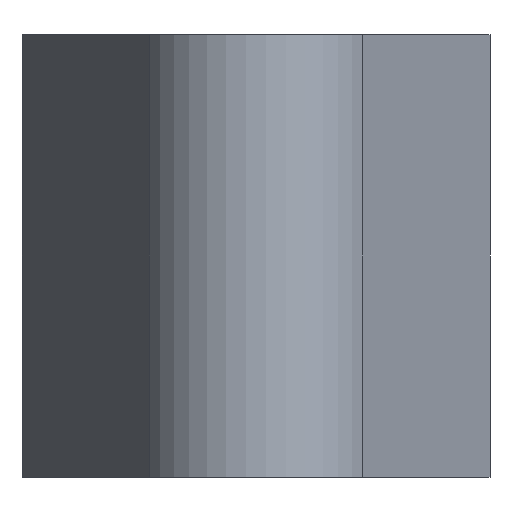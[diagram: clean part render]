
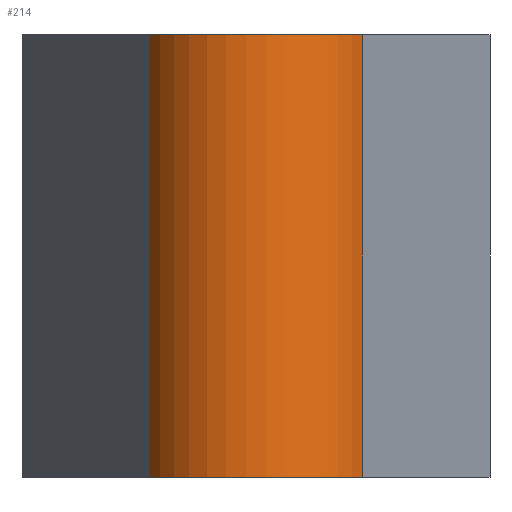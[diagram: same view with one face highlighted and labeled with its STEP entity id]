
A CAD part, left-side view. The second image highlights one B-rep face of the part: STEP entity #214.
In plain terms, the highlighted cylindrical face has radius 9.5 mm (diameter 19 mm), a partial arc.
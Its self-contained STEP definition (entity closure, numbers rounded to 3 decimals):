
#127=CYLINDRICAL_SURFACE('',#826,9.5);
#156=CIRCLE('',#824,9.5);
#157=CIRCLE('',#825,9.5);
#214=ADVANCED_FACE('',(#271),#127,.T.);
#271=FACE_OUTER_BOUND('',#305,.T.);
#305=EDGE_LOOP('',(#383,#384,#385,#386));
#383=ORIENTED_EDGE('',*,*,#644,.T.);
#384=ORIENTED_EDGE('',*,*,#645,.F.);
#385=ORIENTED_EDGE('',*,*,#641,.F.);
#386=ORIENTED_EDGE('',*,*,#646,.T.);
#571=VERTEX_POINT('',#1192);
#572=VERTEX_POINT('',#1193);
#573=VERTEX_POINT('',#1198);
#574=VERTEX_POINT('',#1199);
#641=EDGE_CURVE('',#571,#572,#737,.T.);
#644=EDGE_CURVE('',#573,#574,#740,.T.);
#645=EDGE_CURVE('',#572,#574,#156,.T.);
#646=EDGE_CURVE('',#571,#573,#157,.T.);
#737=LINE('',#1191,#781);
#740=LINE('',#1197,#784);
#781=VECTOR('',#945,1.);
#784=VECTOR('',#950,1.);
#824=AXIS2_PLACEMENT_3D('',#1200,#951,#952);
#825=AXIS2_PLACEMENT_3D('',#1201,#953,#954);
#826=AXIS2_PLACEMENT_3D('',#1202,#955,#956);
#945=DIRECTION('',(0.,0.,1.));
#950=DIRECTION('',(0.,0.,1.));
#951=DIRECTION('',(0.,0.,1.));
#952=DIRECTION('',(1.,0.,0.));
#953=DIRECTION('',(0.,0.,1.));
#954=DIRECTION('',(1.,0.,0.));
#955=DIRECTION('',(0.,0.,1.));
#956=DIRECTION('',(-1.,0.,0.));
#1191=CARTESIAN_POINT('',(-4.38,8.43,0.));
#1192=CARTESIAN_POINT('',(-4.38,8.43,0.));
#1193=CARTESIAN_POINT('',(-4.38,8.43,35.));
#1197=CARTESIAN_POINT('',(-4.38,-8.43,0.));
#1198=CARTESIAN_POINT('',(-4.38,-8.43,0.));
#1199=CARTESIAN_POINT('',(-4.38,-8.43,35.));
#1200=CARTESIAN_POINT('',(0.,0.,35.));
#1201=CARTESIAN_POINT('',(0.,0.,0.));
#1202=CARTESIAN_POINT('',(0.,0.,0.));
